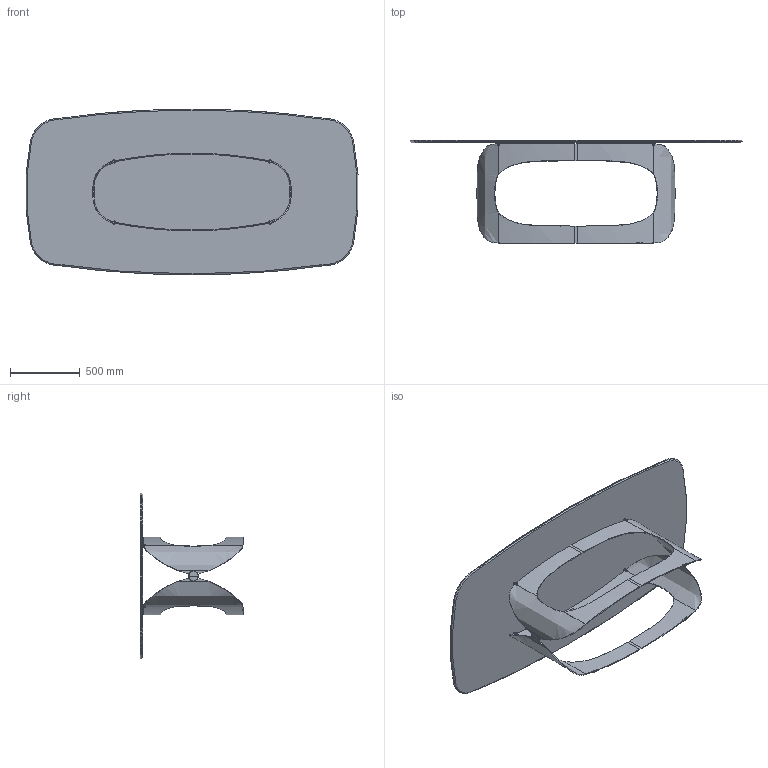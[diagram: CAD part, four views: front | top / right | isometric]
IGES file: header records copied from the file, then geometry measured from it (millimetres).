
Start section: SolidWorks IGES file using analytic representation for surfaces
Global section: file name: Y:\eforma\TECNICO\SOLIDWORKS\E-FORMA\1-TAVOLI\POLIFEMO\02 parts\PO42C.IGS; native system: SolidWorks 2022; preprocessor: SolidWorks 2022; author: eforma.tech; date: 240806.160423; units: millimetre
Bounding box: 2382.15 x 740.97 x 1190 mm (x, y, z)
Volume: 48974200.3 mm3; surface area: 13089669.5 mm2
Topology: 25 solids, 25 shells, 497 faces, 1229 edges, 788 vertices
Faces by surface type: revolution 264, plane 153, bspline 80
